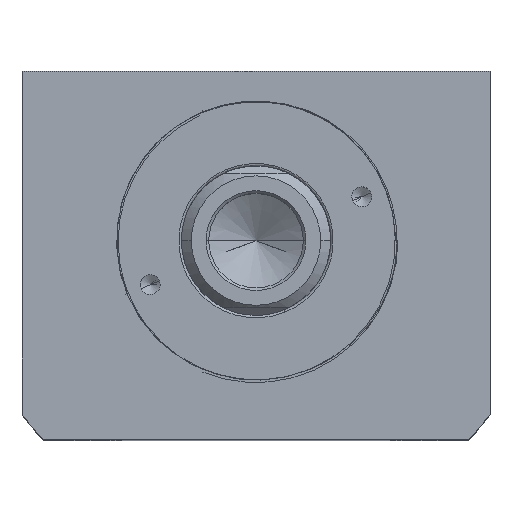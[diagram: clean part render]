
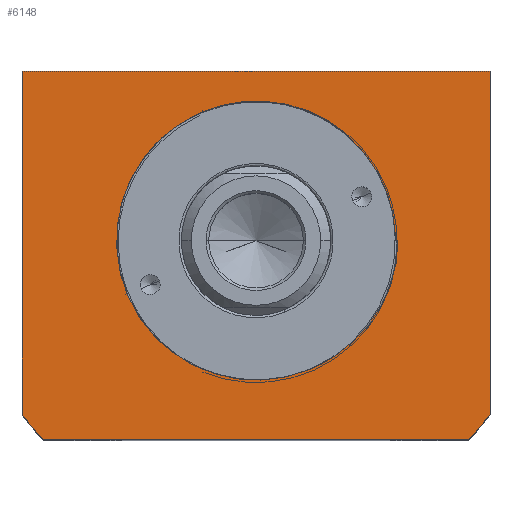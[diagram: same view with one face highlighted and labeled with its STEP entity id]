
A CAD part, top view. The second image highlights one B-rep face of the part: STEP entity #6148.
In plain terms, the highlighted planar face has unit normal (0, 0, 1).
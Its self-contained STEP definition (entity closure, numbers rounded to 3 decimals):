
#197 = FACE_BOUND ( 'NONE', #10451, .T. ) ;
#207 = LINE ( 'NONE', #10754, #3331 ) ;
#225 = ORIENTED_EDGE ( 'NONE', *, *, #10152, .T. ) ;
#329 = CARTESIAN_POINT ( 'NONE',  ( 27.887, -5.628, 42.5 ) ) ;
#351 = DIRECTION ( 'NONE',  ( 1., 0., 0. ) ) ;
#355 = AXIS2_PLACEMENT_3D ( 'NONE', #3345, #9402, #4263 ) ;
#405 = CARTESIAN_POINT ( 'NONE',  ( 27.555, -6.99, 42.5 ) ) ;
#440 = CARTESIAN_POINT ( 'NONE',  ( 28.495, 0., 42.5 ) ) ;
#469 = VERTEX_POINT ( 'NONE', #9346 ) ;
#543 = VERTEX_POINT ( 'NONE', #4465 ) ;
#590 = AXIS2_PLACEMENT_3D ( 'NONE', #9418, #5084, #5158 ) ;
#1197 = CARTESIAN_POINT ( 'NONE',  ( 11.542, -25.544, 42.5 ) ) ;
#1237 = CARTESIAN_POINT ( 'NONE',  ( 10.89, -25.816, 42.5 ) ) ;
#1253 = ORIENTED_EDGE ( 'NONE', *, *, #1602, .T. ) ;
#1258 = CARTESIAN_POINT ( 'NONE',  ( 47., 34., 42.5 ) ) ;
#1560 = LINE ( 'NONE', #3796, #1839 ) ;
#1602 = EDGE_CURVE ( 'NONE', #543, #6820, #8477, .T. ) ;
#1719 = CIRCLE ( 'NONE', #9614, 58.5 ) ;
#1742 = AXIS2_PLACEMENT_3D ( 'NONE', #9999, #8215, #351 ) ;
#1839 = VECTOR ( 'NONE', #3911, 1000. ) ;
#1871 = DIRECTION ( 'NONE',  ( 0., 0., 1. ) ) ;
#1956 = CIRCLE ( 'NONE', #1742, 28. ) ;
#2233 = CARTESIAN_POINT ( 'NONE',  ( 47., -34.832, 42.5 ) ) ;
#2383 = EDGE_CURVE ( 'NONE', #6961, #469, #10901, .T. ) ;
#2942 = CARTESIAN_POINT ( 'NONE',  ( 21.684, -18.094, 42.5 ) ) ;
#2980 = CARTESIAN_POINT ( 'NONE',  ( 26.694, -9.657, 42.5 ) ) ;
#3005 = EDGE_LOOP ( 'NONE', ( #11105, #3048, #1253, #10330, #10832, #10170 ) ) ;
#3043 = LINE ( 'NONE', #8860, #4548 ) ;
#3048 = ORIENTED_EDGE ( 'NONE', *, *, #8783, .T. ) ;
#3331 = VECTOR ( 'NONE', #8938, 1000. ) ;
#3345 = CARTESIAN_POINT ( 'NONE',  ( 0., 0., 42.5 ) ) ;
#3394 = VERTEX_POINT ( 'NONE', #9894 ) ;
#3796 = CARTESIAN_POINT ( 'NONE',  ( 42.688, -40., 42.5 ) ) ;
#3874 = CARTESIAN_POINT ( 'NONE',  ( 20.224, -19.631, 42.5 ) ) ;
#3911 = DIRECTION ( 'NONE',  ( 1., 0., 0. ) ) ;
#4263 = DIRECTION ( 'NONE',  ( 1., 0., 0. ) ) ;
#4273 = CARTESIAN_POINT ( 'NONE',  ( -47., 34., 42.5 ) ) ;
#4465 = CARTESIAN_POINT ( 'NONE',  ( -47., -34.832, 42.5 ) ) ;
#4548 = VECTOR ( 'NONE', #8106, 1000. ) ;
#4618 = CARTESIAN_POINT ( 'NONE',  ( 13.459, -24.624, 42.5 ) ) ;
#4741 = CARTESIAN_POINT ( 'NONE',  ( 16.467, -22.819, 42.5 ) ) ;
#4778 = CARTESIAN_POINT ( 'NONE',  ( 18.129, -21.529, 42.5 ) ) ;
#5084 = DIRECTION ( 'NONE',  ( 0., 0., 1. ) ) ;
#5158 = DIRECTION ( 'NONE',  ( 1., 0., 0. ) ) ;
#5504 = CARTESIAN_POINT ( 'NONE',  ( 24.178, -14.712, 42.5 ) ) ;
#5518 = VERTEX_POINT ( 'NONE', #10980 ) ;
#5561 = CARTESIAN_POINT ( 'NONE',  ( -42.688, -40., 42.5 ) ) ;
#5626 = CARTESIAN_POINT ( 'NONE',  ( 28.485, -0.71, 42.5 ) ) ;
#5942 = B_SPLINE_CURVE_WITH_KNOTS ( 'NONE', 3,
 ( #440, #5626, #9944, #10735, #9002, #329, #405, #2980, #9835, #7328, #5504, #10775, #2942, #3874, #6456, #6416, #4778, #4741, #6531, #4618, #7248, #1197, #1237, #6376 ),
 .UNSPECIFIED., .F., .F.,
 ( 4, 2, 2, 2, 2, 2, 2, 2, 2, 2, 2, 4 ),
 ( 0., 0.002, 0.004, 0.009, 0.013, 0.017, 0.021, 0.023, 0.026, 0.03, 0.032, 0.034 ),
 .UNSPECIFIED. ) ;
#6141 = CARTESIAN_POINT ( 'NONE',  ( 0., 0., 42.5 ) ) ;
#6148 = ADVANCED_FACE ( 'NONE', ( #197, #9186 ), #10364, .T. ) ;
#6376 = CARTESIAN_POINT ( 'NONE',  ( 10.232, -26.064, 42.5 ) ) ;
#6416 = CARTESIAN_POINT ( 'NONE',  ( 18.667, -21.077, 42.5 ) ) ;
#6456 = CARTESIAN_POINT ( 'NONE',  ( 19.714, -20.129, 42.5 ) ) ;
#6476 = VERTEX_POINT ( 'NONE', #8430 ) ;
#6531 = CARTESIAN_POINT ( 'NONE',  ( 15.3, -23.593, 42.5 ) ) ;
#6820 = VERTEX_POINT ( 'NONE', #5561 ) ;
#6827 = EDGE_CURVE ( 'NONE', #3394, #469, #1956, .T. ) ;
#6961 = VERTEX_POINT ( 'NONE', #9925 ) ;
#6991 = DIRECTION ( 'NONE',  ( 1., 0., 0. ) ) ;
#7248 = CARTESIAN_POINT ( 'NONE',  ( 12.831, -24.945, 42.5 ) ) ;
#7328 = CARTESIAN_POINT ( 'NONE',  ( 24.898, -13.504, 42.5 ) ) ;
#7431 = LINE ( 'NONE', #4273, #9340 ) ;
#7970 = EDGE_CURVE ( 'NONE', #8527, #5518, #7431, .T. ) ;
#8106 = DIRECTION ( 'NONE',  ( 0., 1., 0. ) ) ;
#8215 = DIRECTION ( 'NONE',  ( 0., 0., -1. ) ) ;
#8430 = CARTESIAN_POINT ( 'NONE',  ( 42.688, -40., 42.5 ) ) ;
#8457 = EDGE_CURVE ( 'NONE', #6476, #9046, #1719, .T. ) ;
#8477 = CIRCLE ( 'NONE', #590, 58.5 ) ;
#8527 = VERTEX_POINT ( 'NONE', #1258 ) ;
#8602 = VECTOR ( 'NONE', #11269, 1000. ) ;
#8783 = EDGE_CURVE ( 'NONE', #5518, #543, #207, .T. ) ;
#8860 = CARTESIAN_POINT ( 'NONE',  ( 47., 34., 42.5 ) ) ;
#8938 = DIRECTION ( 'NONE',  ( 0., -1., 0. ) ) ;
#9002 = CARTESIAN_POINT ( 'NONE',  ( 28.233, -3.538, 42.5 ) ) ;
#9046 = VERTEX_POINT ( 'NONE', #2233 ) ;
#9186 = FACE_OUTER_BOUND ( 'NONE', #3005, .T. ) ;
#9340 = VECTOR ( 'NONE', #9370, 1000. ) ;
#9346 = CARTESIAN_POINT ( 'NONE',  ( 28., 0., 42.5 ) ) ;
#9370 = DIRECTION ( 'NONE',  ( -1., 0., 0. ) ) ;
#9402 = DIRECTION ( 'NONE',  ( 0., 0., 1. ) ) ;
#9418 = CARTESIAN_POINT ( 'NONE',  ( 0., 0., 42.5 ) ) ;
#9456 = CARTESIAN_POINT ( 'NONE',  ( 0., 0., 42.5 ) ) ;
#9493 = ORIENTED_EDGE ( 'NONE', *, *, #2383, .F. ) ;
#9614 = AXIS2_PLACEMENT_3D ( 'NONE', #6141, #1871, #6991 ) ;
#9835 = CARTESIAN_POINT ( 'NONE',  ( 26.163, -10.961, 42.5 ) ) ;
#9894 = CARTESIAN_POINT ( 'NONE',  ( 10.232, -26.064, 42.5 ) ) ;
#9925 = CARTESIAN_POINT ( 'NONE',  ( 28.495, 0., 42.5 ) ) ;
#9944 = CARTESIAN_POINT ( 'NONE',  ( 28.449, -1.419, 42.5 ) ) ;
#9999 = CARTESIAN_POINT ( 'NONE',  ( 0., 0., 42.5 ) ) ;
#10070 = EDGE_CURVE ( 'NONE', #6820, #6476, #1560, .T. ) ;
#10152 = EDGE_CURVE ( 'NONE', #6961, #3394, #5942, .T. ) ;
#10170 = ORIENTED_EDGE ( 'NONE', *, *, #10240, .T. ) ;
#10240 = EDGE_CURVE ( 'NONE', #9046, #8527, #3043, .T. ) ;
#10330 = ORIENTED_EDGE ( 'NONE', *, *, #10070, .T. ) ;
#10364 = PLANE ( 'NONE',  #355 ) ;
#10418 = ORIENTED_EDGE ( 'NONE', *, *, #6827, .T. ) ;
#10451 = EDGE_LOOP ( 'NONE', ( #9493, #225, #10418 ) ) ;
#10735 = CARTESIAN_POINT ( 'NONE',  ( 28.323, -2.832, 42.5 ) ) ;
#10754 = CARTESIAN_POINT ( 'NONE',  ( -47., -34.832, 42.5 ) ) ;
#10775 = CARTESIAN_POINT ( 'NONE',  ( 22.571, -17.007, 42.5 ) ) ;
#10832 = ORIENTED_EDGE ( 'NONE', *, *, #8457, .T. ) ;
#10901 = LINE ( 'NONE', #9456, #8602 ) ;
#10980 = CARTESIAN_POINT ( 'NONE',  ( -47., 34., 42.5 ) ) ;
#11105 = ORIENTED_EDGE ( 'NONE', *, *, #7970, .T. ) ;
#11269 = DIRECTION ( 'NONE',  ( -1., 0., 0. ) ) ;
